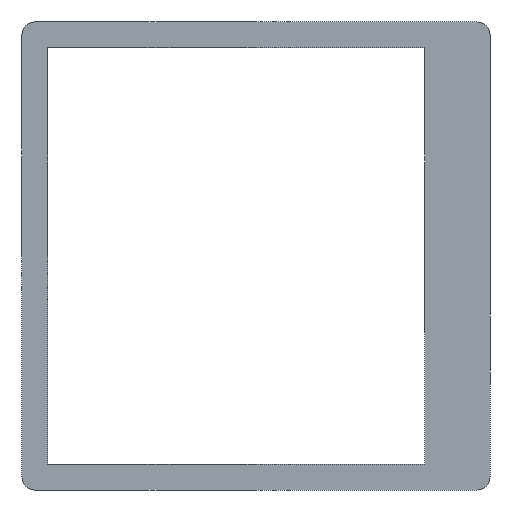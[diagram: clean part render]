
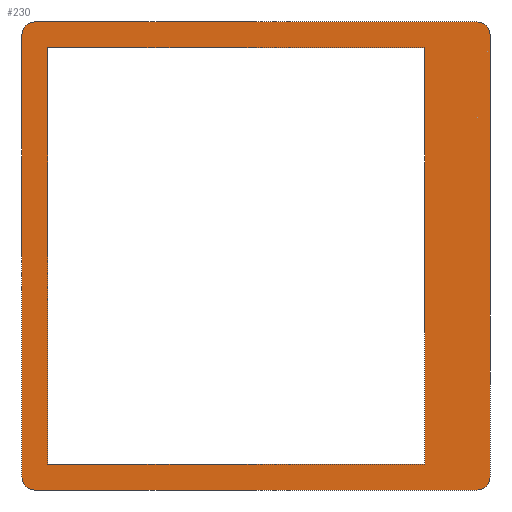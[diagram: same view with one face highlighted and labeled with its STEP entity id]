
A CAD part, front view. The second image highlights one B-rep face of the part: STEP entity #230.
In plain terms, the highlighted planar face has unit normal (0, -1, 0).
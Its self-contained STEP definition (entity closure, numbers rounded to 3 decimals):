
#70=FACE_BOUND('',#312,.T.);
#71=FACE_BOUND('',#313,.T.);
#172=CIRCLE('',#805,1.);
#173=CIRCLE('',#806,1.);
#174=CIRCLE('',#807,1.);
#175=CIRCLE('',#808,1.);
#230=ADVANCED_FACE('',(#70,#71),#280,.T.);
#280=PLANE('',#809);
#312=EDGE_LOOP('',(#430,#431,#432,#433,#434,#435,#436,#437));
#313=EDGE_LOOP('',(#438,#439,#440,#441));
#430=ORIENTED_EDGE('',*,*,#669,.T.);
#431=ORIENTED_EDGE('',*,*,#670,.T.);
#432=ORIENTED_EDGE('',*,*,#671,.T.);
#433=ORIENTED_EDGE('',*,*,#672,.F.);
#434=ORIENTED_EDGE('',*,*,#673,.T.);
#435=ORIENTED_EDGE('',*,*,#674,.F.);
#436=ORIENTED_EDGE('',*,*,#675,.T.);
#437=ORIENTED_EDGE('',*,*,#676,.T.);
#438=ORIENTED_EDGE('',*,*,#677,.F.);
#439=ORIENTED_EDGE('',*,*,#678,.F.);
#440=ORIENTED_EDGE('',*,*,#662,.F.);
#441=ORIENTED_EDGE('',*,*,#668,.F.);
#590=VERTEX_POINT('',#1153);
#591=VERTEX_POINT('',#1154);
#595=VERTEX_POINT('',#1164);
#596=VERTEX_POINT('',#1168);
#597=VERTEX_POINT('',#1169);
#598=VERTEX_POINT('',#1171);
#599=VERTEX_POINT('',#1173);
#600=VERTEX_POINT('',#1175);
#601=VERTEX_POINT('',#1177);
#602=VERTEX_POINT('',#1179);
#603=VERTEX_POINT('',#1181);
#604=VERTEX_POINT('',#1184);
#662=EDGE_CURVE('',#590,#591,#746,.T.);
#668=EDGE_CURVE('',#595,#590,#752,.T.);
#669=EDGE_CURVE('',#596,#597,#172,.T.);
#670=EDGE_CURVE('',#597,#598,#753,.T.);
#671=EDGE_CURVE('',#598,#599,#173,.T.);
#672=EDGE_CURVE('',#600,#599,#754,.T.);
#673=EDGE_CURVE('',#600,#601,#174,.T.);
#674=EDGE_CURVE('',#602,#601,#755,.T.);
#675=EDGE_CURVE('',#602,#603,#175,.T.);
#676=EDGE_CURVE('',#603,#596,#756,.T.);
#677=EDGE_CURVE('',#604,#595,#757,.T.);
#678=EDGE_CURVE('',#591,#604,#758,.T.);
#746=LINE('',#1152,#774);
#752=LINE('',#1165,#780);
#753=LINE('',#1170,#781);
#754=LINE('',#1174,#782);
#755=LINE('',#1178,#783);
#756=LINE('',#1182,#784);
#757=LINE('',#1183,#785);
#758=LINE('',#1185,#786);
#774=VECTOR('',#911,1.);
#780=VECTOR('',#919,1.);
#781=VECTOR('',#924,1.);
#782=VECTOR('',#927,1.);
#783=VECTOR('',#930,1.);
#784=VECTOR('',#933,1.);
#785=VECTOR('',#934,1.);
#786=VECTOR('',#935,1.);
#805=AXIS2_PLACEMENT_3D('',#1167,#922,#923);
#806=AXIS2_PLACEMENT_3D('',#1172,#925,#926);
#807=AXIS2_PLACEMENT_3D('',#1176,#928,#929);
#808=AXIS2_PLACEMENT_3D('',#1180,#931,#932);
#809=AXIS2_PLACEMENT_3D('',#1186,#936,#937);
#911=DIRECTION('',(0.,0.,-1.));
#919=DIRECTION('',(-1.,0.,0.));
#922=DIRECTION('',(0.,-1.,0.));
#923=DIRECTION('',(1.,0.,0.));
#924=DIRECTION('',(-1.,0.,0.));
#925=DIRECTION('',(0.,-1.,0.));
#926=DIRECTION('',(0.,0.,1.));
#927=DIRECTION('',(0.,0.,1.));
#928=DIRECTION('',(0.,-1.,0.));
#929=DIRECTION('',(-1.,0.,0.));
#930=DIRECTION('',(-1.,0.,0.));
#931=DIRECTION('',(0.,-1.,0.));
#932=DIRECTION('',(0.,0.,-1.));
#933=DIRECTION('',(0.,0.,1.));
#934=DIRECTION('',(0.,0.,1.));
#935=DIRECTION('',(1.,0.,0.));
#936=DIRECTION('',(0.,-1.,0.));
#937=DIRECTION('',(0.,0.,1.));
#1152=CARTESIAN_POINT('',(426.629,-348.701,1671.8));
#1153=CARTESIAN_POINT('',(426.629,-348.701,1671.8));
#1154=CARTESIAN_POINT('',(426.629,-348.701,1639.8));
#1164=CARTESIAN_POINT('',(455.629,-348.701,1671.8));
#1165=CARTESIAN_POINT('',(455.629,-348.701,1671.8));
#1167=CARTESIAN_POINT('',(459.629,-348.701,1672.8));
#1168=CARTESIAN_POINT('',(460.629,-348.701,1672.8));
#1169=CARTESIAN_POINT('',(459.629,-348.701,1673.8));
#1170=CARTESIAN_POINT('',(459.629,-348.701,1673.8));
#1171=CARTESIAN_POINT('',(425.629,-348.701,1673.8));
#1172=CARTESIAN_POINT('',(425.629,-348.701,1672.8));
#1173=CARTESIAN_POINT('',(424.629,-348.701,1672.8));
#1174=CARTESIAN_POINT('',(424.629,-348.701,1638.8));
#1175=CARTESIAN_POINT('',(424.629,-348.701,1638.8));
#1176=CARTESIAN_POINT('',(425.629,-348.701,1638.8));
#1177=CARTESIAN_POINT('',(425.629,-348.701,1637.8));
#1178=CARTESIAN_POINT('',(459.629,-348.701,1637.8));
#1179=CARTESIAN_POINT('',(459.629,-348.701,1637.8));
#1180=CARTESIAN_POINT('',(459.629,-348.701,1638.8));
#1181=CARTESIAN_POINT('',(460.629,-348.701,1638.8));
#1182=CARTESIAN_POINT('',(460.629,-348.701,1638.8));
#1183=CARTESIAN_POINT('',(455.629,-348.701,1639.8));
#1184=CARTESIAN_POINT('',(455.629,-348.701,1639.8));
#1185=CARTESIAN_POINT('',(426.629,-348.701,1639.8));
#1186=CARTESIAN_POINT('',(442.629,-348.701,1655.8));
